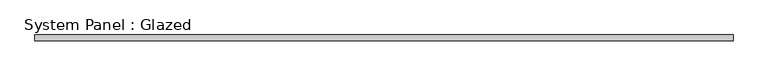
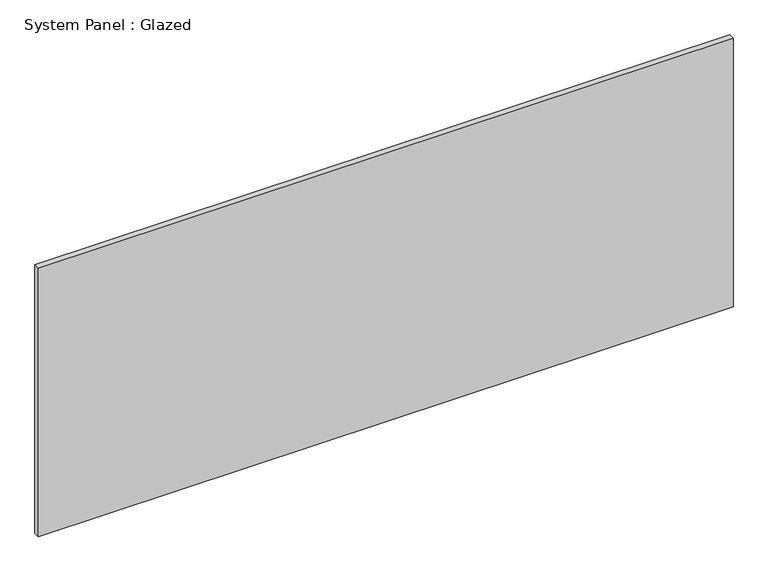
"""IFC4 building model written with IfcOpenShell, lengths in millimetres: plate geometry, System Panel : Glazed."""

from ifc_helpers import new_model, si_unit, origin, origin_with_axes, place, context, project, spatial, polyline, outline, extrude, source, transform, mapped, element, save


def system_panel_glazed_7578c6fa(model_context):
    return source(origin(), model_context, "Body", "SweptSolid", [
        extrude(outline(polyline([(1468.8384256, 24.5), (-1468.8384256, 24.5), (-1468.8384256, 49.5), (1468.8384256, 49.5), (1468.8384256, 24.5)])), origin_with_axes(), (0.0, 0.0, 1.0), 1200.0),
    ])


if __name__ == "__main__":
    model = new_model("IFC4")
    model_context = context("Model", 3, world=origin())
    ifc_project = project(units=[si_unit("LENGTHUNIT", "METRE", prefix="MILLI")], contexts=[model_context])
    site = spatial("IfcSite", under=ifc_project)
    building = spatial("IfcBuilding", under=site)
    placement = place(None, origin())
    system_panel_glazed_shape = system_panel_glazed_7578c6fa(model_context)
    element("IfcPlate", 1, ObjectType="System Panel : Glazed", at=placement, inside=building, context=model_context, shape_type="MappedRepresentation", body=[
        mapped(system_panel_glazed_shape, transform((0.0, 0.0, 0.0), x_axis=(1.0, 0.0, 0.0), y_axis=(0.0, 1.0, 0.0), z_axis=(0.0, 0.0, 1.0))),
    ])
    save(model, "model.ifc")
